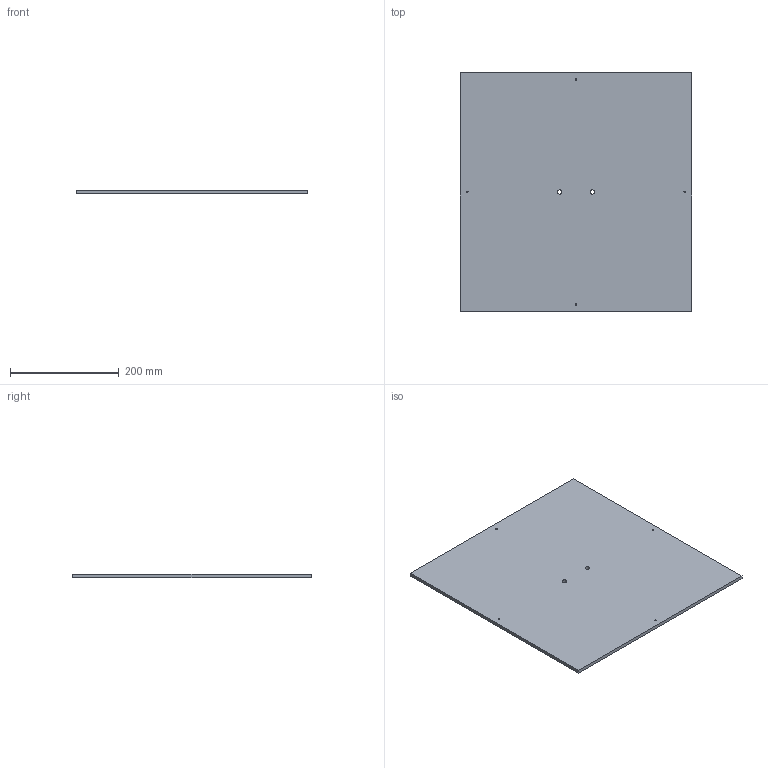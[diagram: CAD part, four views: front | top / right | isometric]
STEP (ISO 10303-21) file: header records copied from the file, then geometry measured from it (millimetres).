
FILE_DESCRIPTION(/* description */ ('STEP AP242','CAx-IF Rec.Pracs.---Representation and Presentation of Product Manufacturing Information (PMI)---4.0---2014-10-13','CAx-IF Rec.Pracs.---3D Tessellated Geometry---0.4---2014-09-14','2;1'),/* implementation_level */ '2;1');
FILE_NAME(/* name */ '676480bf662da1494b1c962f',/* time_stamp */ '2024-12-19T20:23:27Z',/* author */ (''),/* organization */ (''),/* preprocessor_version */ 'ST-DEVELOPER v20',/* originating_system */ 'ONSHAPE BY PTC INC, 1.191',/* authorisation */ ' ');
FILE_SCHEMA (('AP242_MANAGED_MODEL_BASED_3D_ENGINEERING_MIM_LF { 1 0 10303 442 1 1 4 }'));
Length unit declared in the file: metre
Products named in the file (1): Part 1
Bounding box: 424.94 x 437.64 x 6.35 mm (x, y, z)
Volume: 1180073.3 mm3; surface area: 383209.5 mm2
Topology: 1 solids, 1 shells, 12 faces, 30 edges, 20 vertices
Faces by surface type: plane 6, cylinder 6
Full cylindrical faces by diameter (mm): 3.226 x4, 8.037 x2
Entity records: 382 total; most frequent: DIRECTION 62, CARTESIAN_POINT 57, ORIENTED_EDGE 48, EDGE_LOOP 30, FACE_BOUND 30, AXIS2_PLACEMENT_3D 25, EDGE_CURVE 24, VERTEX_POINT 20
